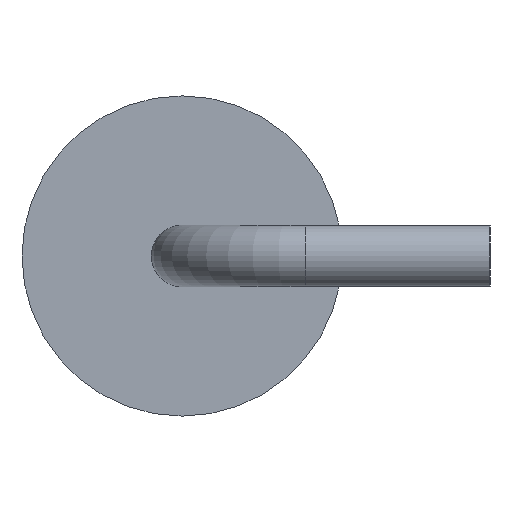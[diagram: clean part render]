
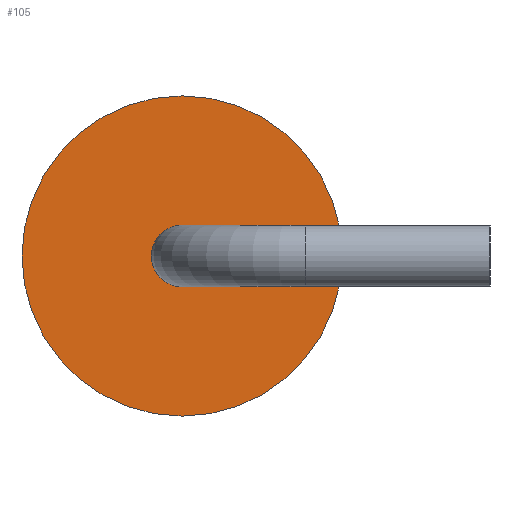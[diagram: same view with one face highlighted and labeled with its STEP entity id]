
A CAD part, left-side view. The second image highlights one B-rep face of the part: STEP entity #105.
In plain terms, the highlighted planar face has unit normal (-1, 0, 0).
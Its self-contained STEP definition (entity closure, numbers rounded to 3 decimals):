
#22 = VERTEX_POINT('',#23);
#23 = CARTESIAN_POINT('',(-4.6,0.,-2.6));
#32 = CYLINDRICAL_SURFACE('',#33,2.6);
#33 = AXIS2_PLACEMENT_3D('',#34,#35,#36);
#34 = CARTESIAN_POINT('',(-4.6,0.,0.));
#35 = DIRECTION('',(-1.,-0.,0.));
#36 = DIRECTION('',(0.,0.,-1.));
#79 = EDGE_CURVE('',#22,#22,#80,.T.);
#80 = SURFACE_CURVE('',#81,(#86,#93),.PCURVE_S1.);
#81 = CIRCLE('',#82,2.6);
#82 = AXIS2_PLACEMENT_3D('',#83,#84,#85);
#83 = CARTESIAN_POINT('',(-4.6,0.,0.));
#84 = DIRECTION('',(1.,-0.,0.));
#85 = DIRECTION('',(0.,0.,-1.));
#86 = PCURVE('',#32,#87);
#87 = DEFINITIONAL_REPRESENTATION('',(#88),#92);
#88 = LINE('',#89,#90);
#89 = CARTESIAN_POINT('',(-0.,0.));
#90 = VECTOR('',#91,1.);
#91 = DIRECTION('',(-1.,0.));
#92 = ( GEOMETRIC_REPRESENTATION_CONTEXT(2) 
PARAMETRIC_REPRESENTATION_CONTEXT() REPRESENTATION_CONTEXT('2D SPACE',''
  ) );
#93 = PCURVE('',#94,#99);
#94 = PLANE('',#95);
#95 = AXIS2_PLACEMENT_3D('',#96,#97,#98);
#96 = CARTESIAN_POINT('',(-4.6,0.,0.));
#97 = DIRECTION('',(1.,0.,0.));
#98 = DIRECTION('',(0.,0.,-1.));
#99 = DEFINITIONAL_REPRESENTATION('',(#100),#104);
#100 = CIRCLE('',#101,2.6);
#101 = AXIS2_PLACEMENT_2D('',#102,#103);
#102 = CARTESIAN_POINT('',(0.,0.));
#103 = DIRECTION('',(1.,0.));
#104 = ( GEOMETRIC_REPRESENTATION_CONTEXT(2) 
PARAMETRIC_REPRESENTATION_CONTEXT() REPRESENTATION_CONTEXT('2D SPACE',''
  ) );
#105 = ADVANCED_FACE('',(#106,#109),#94,.F.);
#106 = FACE_BOUND('',#107,.F.);
#107 = EDGE_LOOP('',(#108));
#108 = ORIENTED_EDGE('',*,*,#79,.T.);
#109 = FACE_BOUND('',#110,.F.);
#110 = EDGE_LOOP('',(#111));
#111 = ORIENTED_EDGE('',*,*,#112,.F.);
#112 = EDGE_CURVE('',#113,#113,#115,.T.);
#113 = VERTEX_POINT('',#114);
#114 = CARTESIAN_POINT('',(-4.6,0.,-0.5));
#115 = SURFACE_CURVE('',#116,(#121,#128),.PCURVE_S1.);
#116 = CIRCLE('',#117,0.5);
#117 = AXIS2_PLACEMENT_3D('',#118,#119,#120);
#118 = CARTESIAN_POINT('',(-4.6,0.,0.));
#119 = DIRECTION('',(1.,-0.,0.));
#120 = DIRECTION('',(0.,0.,-1.));
#121 = PCURVE('',#94,#122);
#122 = DEFINITIONAL_REPRESENTATION('',(#123),#127);
#123 = CIRCLE('',#124,0.5);
#124 = AXIS2_PLACEMENT_2D('',#125,#126);
#125 = CARTESIAN_POINT('',(0.,0.));
#126 = DIRECTION('',(1.,0.));
#127 = ( GEOMETRIC_REPRESENTATION_CONTEXT(2) 
PARAMETRIC_REPRESENTATION_CONTEXT() REPRESENTATION_CONTEXT('2D SPACE',''
  ) );
#128 = PCURVE('',#129,#134);
#129 = CYLINDRICAL_SURFACE('',#130,0.5);
#130 = AXIS2_PLACEMENT_3D('',#131,#132,#133);
#131 = CARTESIAN_POINT('',(-5.6,0.,0.));
#132 = DIRECTION('',(-1.,-0.,0.));
#133 = DIRECTION('',(0.,0.,-1.));
#134 = DEFINITIONAL_REPRESENTATION('',(#135),#139);
#135 = LINE('',#136,#137);
#136 = CARTESIAN_POINT('',(-0.,-1.));
#137 = VECTOR('',#138,1.);
#138 = DIRECTION('',(-1.,0.));
#139 = ( GEOMETRIC_REPRESENTATION_CONTEXT(2) 
PARAMETRIC_REPRESENTATION_CONTEXT() REPRESENTATION_CONTEXT('2D SPACE',''
  ) );
